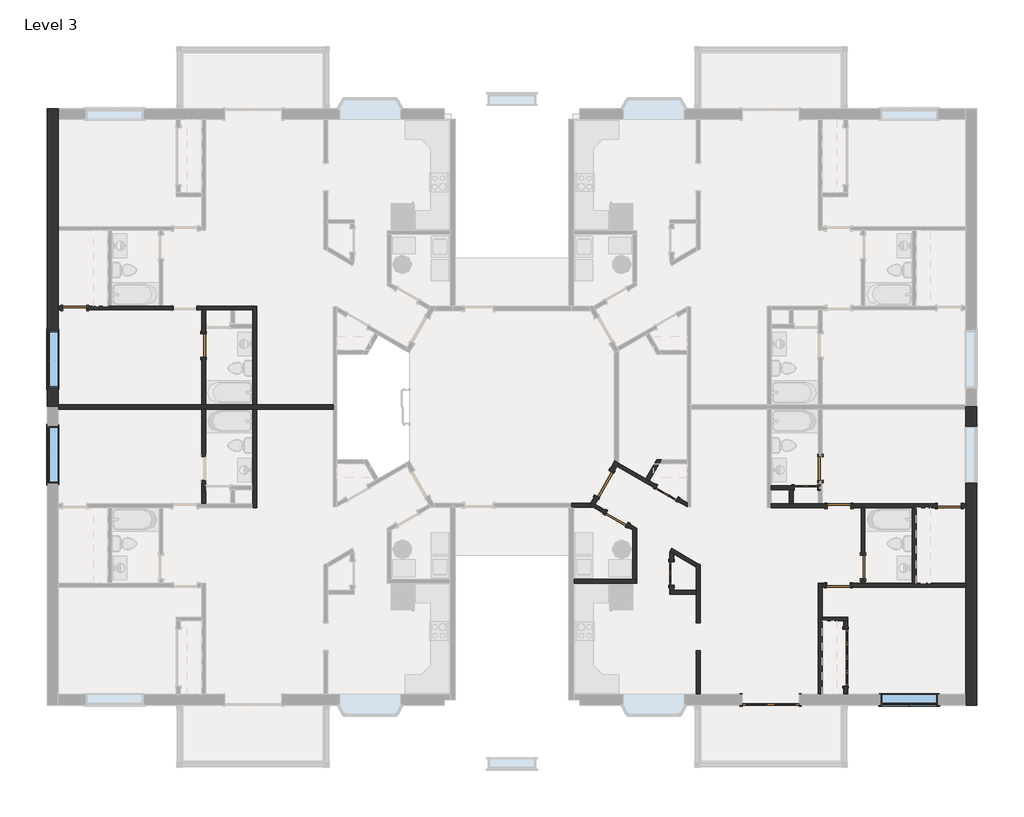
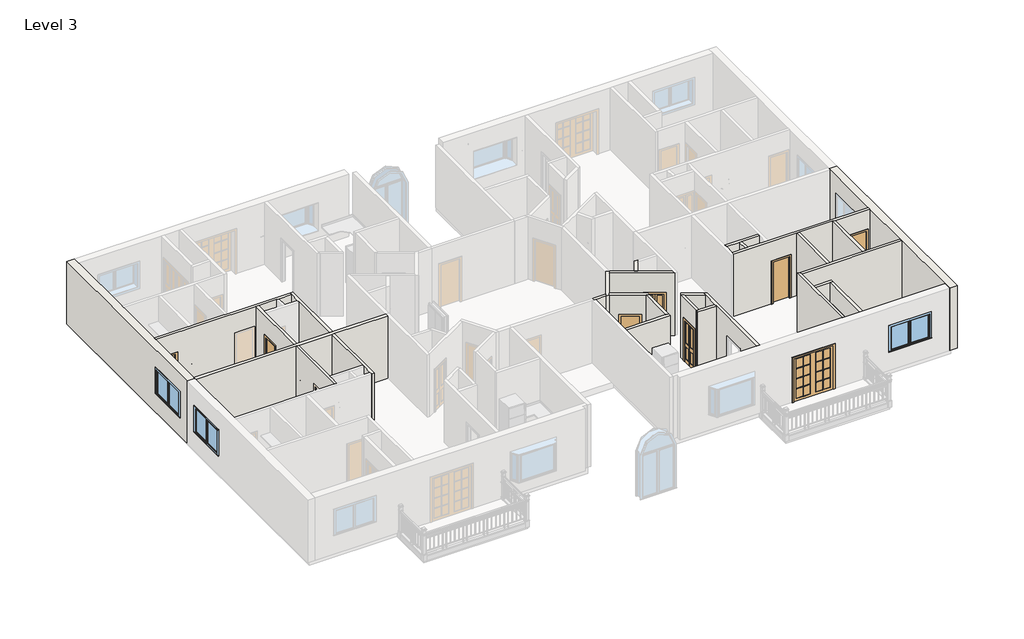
# One storey, part 2 of 5: 28 walls, 14 doors, 3 windows.
"""IFC4 building model written with IfcOpenShell, lengths in millimetres."""

from ifc_helpers import new_model, si_unit, frame, origin, place, context, project, spatial, polyline, outline, extrude, faceted_brep, transform, mapped, element, save
from components import door_28b41c19, door_77c9d7c5, door_beec499a, door_8fade463, door_91cbdfe0, door_39079f6b, door_e1308624, window_565d5888, window_801eb773

model = new_model("IFC4")

# Units and contexts
model_context = context("Model", 3, world=origin())
ifc_project = project(units=[si_unit("LENGTHUNIT", "METRE", prefix="MILLI")], contexts=[model_context])

# Site, building, storey
site = spatial("IfcSite", under=ifc_project)
building = spatial("IfcBuilding", under=site)
storey = spatial("IfcBuildingStorey", under=building, Name="Level 3", Elevation=6096.0)

# Doors
placement = place(None, origin())
door_shape = door_28b41c19(model_context)
element("IfcDoor", 1, ObjectType="Bifold-2 Panel : 30\" x 80\"", at=placement, inside=storey, context=model_context, shape_type="MappedRepresentation", body=[
    mapped(door_shape, transform((4512.9374602, -3569.9786799, 6096.0), x_axis=(0.0, -1.0, 0.0), y_axis=(1.0, 0.0, 0.0), z_axis=(0.0, 0.0, 1.0))),
])
element("IfcDoor", 2, ObjectType="Bifold-2 Panel : 30\" x 80\"", at=placement, inside=storey, context=model_context, shape_type="MappedRepresentation", body=[
    mapped(door_shape, transform((4356.3593145, -978.2984974, 6096.0), x_axis=(0.8660254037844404, -0.4999999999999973, 0.0), y_axis=(0.4999999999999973, 0.8660254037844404, 0.0), z_axis=(0.0, 0.0, 1.0))),
])
door_2_shape = door_77c9d7c5(model_context)
element("IfcDoor", 3, ObjectType="Bifold-2 Panel : 30\" x 80\"", at=placement, inside=storey, context=model_context, shape_type="MappedRepresentation", body=[
    mapped(door_2_shape, transform((8842.0499602, -807.7286799, 6096.0), x_axis=(1.0, 0.0, 0.0), y_axis=(0.0, 1.0, 0.0), z_axis=(0.0, 0.0, 1.0))),
])
door_3_shape = door_beec499a(model_context)
element("IfcDoor", 4, ObjectType="Bifold-4 Panel : 72\" x 80\"", at=placement, inside=storey, context=model_context, shape_type="MappedRepresentation", body=[
    mapped(door_3_shape, transform((10123.1624602, -6287.7786799, 6096.0), x_axis=(0.0, 1.0, 0.0), y_axis=(-1.0, 0.0, 0.0), z_axis=(0.0, 0.0, 1.0))),
])
door_4_shape = door_8fade463(model_context)
element("IfcDoor", 5, ObjectType="Double-Glass 2 : 72\" x 84\"", at=placement, inside=storey, context=model_context, shape_type="MappedRepresentation", body=[
    mapped(door_4_shape, transform((7708.5749602, -7646.6786799, 6096.0), x_axis=(1.0, 0.0, 0.0), y_axis=(0.0, 1.0, 0.0), z_axis=(0.0, 0.0, 1.0))),
])
door_5_shape = door_91cbdfe0(model_context)
element("IfcDoor", 6, ObjectType="Single-Flush : 30\" x 80\"", at=placement, inside=storey, context=model_context, shape_type="MappedRepresentation", body=[
    mapped(door_5_shape, transform((-10574.6625398, 3775.3838201, 6096.0), x_axis=(0.0, 1.0, 0.0), y_axis=(-1.0, 0.0, 0.0), z_axis=(0.0, 0.0, 1.0))),
])
element("IfcDoor", 7, ObjectType="Single-Flush : 30\" x 80\"", at=placement, inside=storey, context=model_context, shape_type="MappedRepresentation", body=[
    mapped(door_5_shape, transform((-14725.9750398, 4983.4713201, 6096.0), x_axis=(-1.0, 0.0, 0.0), y_axis=(0.0, -1.0, 0.0), z_axis=(0.0, 0.0, 1.0))),
])
element("IfcDoor", 8, ObjectType="Single-Flush : 30\" x 80\"", at=placement, inside=storey, context=model_context, shape_type="MappedRepresentation", body=[
    mapped(door_5_shape, transform((9905.6749602, -1391.9286799, 6096.0), x_axis=(-1.0, 0.0, 0.0), y_axis=(0.0, -1.0, 0.0), z_axis=(0.0, 0.0, 1.0))),
])
element("IfcDoor", 9, ObjectType="Single-Flush : 30\" x 80\"", at=placement, inside=storey, context=model_context, shape_type="MappedRepresentation", body=[
    mapped(door_5_shape, transform((9310.3624602, -183.8411799, 6096.0), x_axis=(0.0, -1.0, 0.0), y_axis=(1.0, 0.0, 0.0), z_axis=(0.0, 0.0, 1.0))),
])
element("IfcDoor", 10, ObjectType="Single-Flush : 30\" x 80\"", at=placement, inside=storey, context=model_context, shape_type="MappedRepresentation", body=[
    mapped(door_5_shape, transform((13461.6749602, -1391.9286799, 6096.0), x_axis=(1.0, 0.0, 0.0), y_axis=(0.0, 1.0, 0.0), z_axis=(0.0, 0.0, 1.0))),
])
door_6_shape = door_39079f6b(model_context)
element("IfcDoor", 11, ObjectType="Single-Flush : 30\" x 80\"", at=placement, inside=storey, context=model_context, shape_type="MappedRepresentation", body=[
    mapped(door_6_shape, transform((9889.7999602, -3954.1536799, 6096.0), x_axis=(-1.0, 0.0, 0.0), y_axis=(0.0, -1.0, 0.0), z_axis=(0.0, 0.0, 1.0))),
])
element("IfcDoor", 12, ObjectType="Single-Flush : 30\" x 80\"", at=placement, inside=storey, context=model_context, shape_type="MappedRepresentation", body=[
    mapped(door_6_shape, transform((2740.2368992, -1809.0046321, 6096.0), x_axis=(-0.8660254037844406, 0.4999999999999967, 0.0), y_axis=(-0.4999999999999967, -0.8660254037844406, 0.0), z_axis=(0.0, 0.0, 1.0))),
])
element("IfcDoor", 13, ObjectType="Single-Flush : 30\" x 80\"", at=placement, inside=storey, context=model_context, shape_type="MappedRepresentation", body=[
    mapped(door_6_shape, transform((10685.1374602, -3358.8411799, 6096.0), x_axis=(0.0, -1.0, 0.0), y_axis=(1.0, 0.0, 0.0), z_axis=(0.0, 0.0, 1.0))),
])
door_7_shape = door_e1308624(model_context)
element("IfcDoor", 14, ObjectType="Single-Flush : 36\" x 80\"", at=placement, inside=storey, context=model_context, shape_type="MappedRepresentation", body=[
    mapped(door_7_shape, transform((2339.4553258, -687.0786799, 6096.0), x_axis=(0.4999999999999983, 0.8660254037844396, 0.0), y_axis=(-0.8660254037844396, 0.4999999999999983, 0.0), z_axis=(0.0, 0.0, 1.0))),
])

# Walls
element("IfcWall", 15, ObjectType="Exterior - Brick on Mtl. Stud", at=placement, inside=storey, context=model_context, shape_type="Brep", body=[
    faceted_brep([(-15259.3750398, 1795.7713201, 6096.0), (-15259.3750398, 1873.5588201, 6096.0), (-15259.3750398, 4921.5588201, 6096.0), (-15259.3750398, 5045.3838201, 6096.0), (-15259.3750398, 7483.7838201, 6096.0), (-15259.3750398, 7607.6088201, 6096.0), (-15259.3750398, 11062.0088201, 6096.0), (-15259.3750398, 11414.4338201, 6096.0), (-15259.3750398, 11414.4338201, 9144.0), (-15259.3750398, 11062.0088201, 9144.0), (-15259.3750398, 7607.6088201, 9144.0), (-15259.3750398, 7483.7838201, 9144.0), (-15259.3750398, 5045.3838201, 9144.0), (-15259.3750398, 4921.5588201, 9144.0), (-15259.3750398, 1873.5588201, 9144.0), (-15259.3750398, 1795.7713201, 9144.0), (-15259.3750398, 2421.2463201, 8229.6), (-15259.3750398, 4250.0463201, 8229.6), (-15259.3750398, 4250.0463201, 7010.4), (-15259.3750398, 2421.2463201, 7010.4), (-15611.8000398, 1795.7713201, 6096.0), (-15611.8000398, 1795.7713201, 9144.0), (-15611.8000398, 11414.4338201, 9144.0), (-15611.8000398, 11414.4338201, 6096.0), (-15611.8000398, 2421.2463201, 8229.6), (-15611.8000398, 2421.2463201, 7010.4), (-15611.8000398, 4250.0463201, 7010.4), (-15611.8000398, 4250.0463201, 8229.6)], [[[0, 1, 2, 3, 4, 5, 6, 7, 8, 9, 10, 11, 12, 13, 14, 15], [16, 17, 18, 19]], [[20, 21, 22, 23], [24, 25, 26, 27]], [[7, 6, 5, 4, 3, 2, 1, 0, 20, 23]], [[15, 14, 13, 12, 11, 10, 9, 8, 22, 21]], [[0, 15, 21, 20]], [[8, 7, 23, 22]], [[25, 24, 16, 19]], [[26, 25, 19, 18]], [[27, 26, 18, 17]], [[24, 27, 17, 16]]]),
])
element("IfcWall", 16, ObjectType="Exterior - Brick on Mtl. Stud", at=placement, inside=storey, context=model_context, shape_type="Brep", body=[
    faceted_brep([(13995.0749602, 1795.7713201, 6096.0), (13995.0749602, 1717.9838201, 6096.0), (13995.0749602, -1330.0161799, 6096.0), (13995.0749602, -1453.8411799, 6096.0), (13995.0749602, -3892.2411799, 6096.0), (13995.0749602, -4016.0661799, 6096.0), (13995.0749602, -7470.4661799, 6096.0), (13995.0749602, -7822.8911799, 6096.0), (13995.0749602, -7822.8911799, 9144.0), (13995.0749602, -7470.4661799, 9144.0), (13995.0749602, -4016.0661799, 9144.0), (13995.0749602, -3892.2411799, 9144.0), (13995.0749602, -1453.8411799, 9144.0), (13995.0749602, -1330.0161799, 9144.0), (13995.0749602, 1717.9838201, 9144.0), (13995.0749602, 1795.7713201, 9144.0), (13995.0749602, 1170.2963201, 8229.6), (13995.0749602, -658.5036799, 8229.6), (13995.0749602, -658.5036799, 7010.4), (13995.0749602, 1170.2963201, 7010.4), (14347.4999602, 1795.7713201, 6096.0), (14347.4999602, 1795.7713201, 9144.0), (14347.4999602, -7822.8911799, 9144.0), (14347.4999602, -7822.8911799, 6096.0), (14347.4999602, 1170.2963201, 8229.6), (14347.4999602, 1170.2963201, 7010.4), (14347.4999602, -658.5036799, 7010.4), (14347.4999602, -658.5036799, 8229.6)], [[[0, 1, 2, 3, 4, 5, 6, 7, 8, 9, 10, 11, 12, 13, 14, 15], [16, 17, 18, 19]], [[20, 21, 22, 23], [24, 25, 26, 27]], [[7, 6, 5, 4, 3, 2, 1, 0, 20, 23]], [[15, 14, 13, 12, 11, 10, 9, 8, 22, 21]], [[0, 15, 21, 20]], [[8, 7, 23, 22]], [[25, 24, 16, 19]], [[26, 25, 19, 18]], [[27, 26, 18, 17]], [[24, 27, 17, 16]]]),
])
element("IfcWall", 17, ObjectType="Generic - 6\" Masonry", at=placement, inside=storey, context=model_context, shape_type="Brep", body=[
    faceted_brep([(1902.2640513, -1301.4411799, 6096.0), (1274.4374602, -1301.4411799, 6096.0), (1274.4374602, -1301.4411799, 9144.0), (1902.2640513, -1301.4411799, 9144.0), (1819.7751316, -1444.3161799, 6096.0), (1819.7751316, -1444.3161799, 9144.0), (1352.2249602, -1444.3161799, 9144.0), (1274.4374602, -1444.3161799, 9144.0), (1274.4374602, -1444.3161799, 6096.0), (1352.2249602, -1444.3161799, 6096.0)], [[[0, 1, 2, 3]], [[4, 5, 6, 7, 8, 9]], [[1, 0, 4, 9, 8]], [[2, 1, 8, 7]], [[3, 2, 7, 6, 5]], [[0, 3, 5, 4]]]),
])
element("IfcWall", 18, ObjectType="Generic - 6\" Masonry", at=placement, inside=storey, context=model_context, shape_type="Brep", body=[
    faceted_brep([(2686.6690032, 57.1880504, 6096.0), (2667.5273827, 24.0337913, 6096.0), (2506.188636, -255.4131153, 6096.0), (2506.188636, -255.4131153, 8128.0), (2048.988636, -1047.3067445, 8128.0), (2048.988636, -1047.3067445, 6096.0), (1902.2640513, -1301.4411799, 6096.0), (1819.7751316, -1444.3161799, 6096.0), (1819.7751316, -1444.3161799, 9144.0), (1902.2640513, -1301.4411799, 9144.0), (2667.5273827, 24.0337913, 9144.0), (2686.6690032, 57.1880504, 9144.0), (2629.9220156, -326.8506153, 8128.0), (2629.9220156, -326.8506153, 6096.0), (2748.4898827, -121.4850452, 6096.0), (2810.4023827, -14.2494496, 6096.0), (2810.4023827, -14.2494496, 9144.0), (2748.4898827, -121.4850452, 9144.0), (2046.665471, -1337.0805843, 9144.0), (1984.752971, -1444.3161799, 9144.0), (1984.752971, -1444.3161799, 6096.0), (2046.665471, -1337.0805843, 6096.0), (2172.7220156, -1118.7442445, 6096.0), (2172.7220156, -1118.7442445, 8128.0)], [[[0, 1, 2, 3, 4, 5, 6, 7, 8, 9, 10, 11]], [[12, 13, 14, 15, 16, 17, 18, 19, 20, 21, 22, 23]], [[15, 14, 13, 2, 1, 0]], [[22, 21, 20, 7, 6, 5]], [[11, 10, 9, 8, 19, 18, 17, 16]], [[0, 11, 16, 15]], [[8, 7, 20, 19]], [[3, 2, 13, 12]], [[4, 3, 12, 23]], [[5, 4, 23, 22]]]),
])
element("IfcWall", 19, ObjectType="Interior - 4 7/8\" Partition (1-hr)", at=placement, inside=storey, context=model_context, shape_type="Brep", body=[
    faceted_brep([(-10512.7500398, -1330.0161799, 6096.0), (-10512.7500398, -869.6411799, 6096.0), (-10512.7500398, -745.8161799, 6096.0), (-10512.7500398, -564.8411799, 6096.0), (-10512.7500398, -564.8411799, 8128.0), (-10512.7500398, 197.1588201, 8128.0), (-10512.7500398, 197.1588201, 6096.0), (-10512.7500398, 1717.9838201, 6096.0), (-10512.7500398, 1717.9838201, 9144.0), (-10512.7500398, -745.8161799, 9144.0), (-10512.7500398, -869.6411799, 9144.0), (-10512.7500398, -1330.0161799, 9144.0), (-10636.5750398, -564.8411799, 8128.0), (-10636.5750398, -564.8411799, 6096.0), (-10636.5750398, -1330.0161799, 6096.0), (-10636.5750398, -1330.0161799, 9144.0), (-10636.5750398, 1717.9838201, 9144.0), (-10636.5750398, 1717.9838201, 6096.0), (-10636.5750398, 197.1588201, 6096.0), (-10636.5750398, 197.1588201, 8128.0)], [[[0, 1, 2, 3, 4, 5, 6, 7, 8, 9, 10, 11]], [[12, 13, 14, 15, 16, 17, 18, 19]], [[14, 13, 3, 2, 1, 0]], [[18, 17, 7, 6]], [[11, 10, 9, 8, 16, 15]], [[0, 11, 15, 14]], [[8, 7, 17, 16]], [[4, 3, 13, 12]], [[5, 4, 12, 19]], [[6, 5, 19, 18]]]),
])
element("IfcWall", 20, ObjectType="Interior - 4 7/8\" Partition (1-hr)", at=placement, inside=storey, context=model_context, shape_type="Brep", body=[
    faceted_brep([(-8864.9250398, -1453.8411799, 6096.0), (-8864.9250398, 1717.9838201, 6096.0), (-8864.9250398, 1717.9838201, 9144.0), (-8864.9250398, -1453.8411799, 9144.0), (-8988.7500398, -1453.8411799, 6096.0), (-8988.7500398, -1453.8411799, 9144.0), (-8988.7500398, -1330.0161799, 9144.0), (-8988.7500398, -869.6411799, 9144.0), (-8988.7500398, -745.8161799, 9144.0), (-8988.7500398, 1717.9838201, 9144.0), (-8988.7500398, 1717.9838201, 6096.0), (-8988.7500398, -745.8161799, 6096.0), (-8988.7500398, -869.6411799, 6096.0), (-8988.7500398, -1330.0161799, 6096.0)], [[[0, 1, 2, 3]], [[4, 5, 6, 7, 8, 9, 10, 11, 12, 13]], [[1, 0, 4, 13, 12, 11, 10]], [[3, 2, 9, 8, 7, 6, 5]], [[0, 3, 5, 4]], [[2, 1, 10, 9]]]),
])
element("IfcWall", 21, ObjectType="Interior - 4 7/8\" Partition (1-hr)", at=placement, inside=storey, context=model_context, shape_type="Brep", body=[
    faceted_brep([(-10636.5750398, 4921.5588201, 6096.0), (-10636.5750398, 4156.3838201, 6096.0), (-10636.5750398, 4156.3838201, 8128.0), (-10636.5750398, 3394.3838201, 8128.0), (-10636.5750398, 3394.3838201, 6096.0), (-10636.5750398, 1873.5588201, 6096.0), (-10636.5750398, 1873.5588201, 9144.0), (-10636.5750398, 4921.5588201, 9144.0), (-10512.7500398, 4156.3838201, 8128.0), (-10512.7500398, 4156.3838201, 6096.0), (-10512.7500398, 4337.3588201, 6096.0), (-10512.7500398, 4461.1838201, 6096.0), (-10512.7500398, 4921.5588201, 6096.0), (-10512.7500398, 4921.5588201, 9144.0), (-10512.7500398, 4461.1838201, 9144.0), (-10512.7500398, 4337.3588201, 9144.0), (-10512.7500398, 1873.5588201, 9144.0), (-10512.7500398, 1873.5588201, 6096.0), (-10512.7500398, 3394.3838201, 6096.0), (-10512.7500398, 3394.3838201, 8128.0)], [[[0, 1, 2, 3, 4, 5, 6, 7]], [[8, 9, 10, 11, 12, 13, 14, 15, 16, 17, 18, 19]], [[12, 11, 10, 9, 1, 0]], [[18, 17, 5, 4]], [[7, 6, 16, 15, 14, 13]], [[0, 7, 13, 12]], [[6, 5, 17, 16]], [[2, 1, 9, 8]], [[3, 2, 8, 19]], [[4, 3, 19, 18]]]),
])
element("IfcWall", 22, ObjectType="Interior - 4 7/8\" Partition (1-hr)", at=placement, inside=storey, context=model_context, shape_type="Brep", body=[
    faceted_brep([(-15259.3750398, 4921.5588201, 6096.0), (-15106.9750398, 4921.5588201, 6096.0), (-15106.9750398, 4921.5588201, 8128.0), (-14344.9750398, 4921.5588201, 8128.0), (-14344.9750398, 4921.5588201, 6096.0), (-11550.9750398, 4921.5588201, 6096.0), (-11550.9750398, 4921.5588201, 8128.0), (-10788.9750398, 4921.5588201, 8128.0), (-10788.9750398, 4921.5588201, 6096.0), (-10636.5750398, 4921.5588201, 6096.0), (-10512.7500398, 4921.5588201, 6096.0), (-9699.9500398, 4921.5588201, 6096.0), (-9576.1250398, 4921.5588201, 6096.0), (-8988.7500398, 4921.5588201, 6096.0), (-8988.7500398, 4921.5588201, 9144.0), (-9576.1250398, 4921.5588201, 9144.0), (-9699.9500398, 4921.5588201, 9144.0), (-10512.7500398, 4921.5588201, 9144.0), (-10636.5750398, 4921.5588201, 9144.0), (-15259.3750398, 4921.5588201, 9144.0), (-15106.9750398, 5045.3838201, 8128.0), (-15106.9750398, 5045.3838201, 6096.0), (-15259.3750398, 5045.3838201, 6096.0), (-15259.3750398, 5045.3838201, 9144.0), (-13659.1750398, 5045.3838201, 9144.0), (-13535.3500398, 5045.3838201, 9144.0), (-12011.3500398, 5045.3838201, 9144.0), (-11887.5250398, 5045.3838201, 9144.0), (-8988.7500398, 5045.3838201, 9144.0), (-8988.7500398, 5045.3838201, 6096.0), (-10788.9750398, 5045.3838201, 6096.0), (-10788.9750398, 5045.3838201, 8128.0), (-11550.9750398, 5045.3838201, 8128.0), (-11550.9750398, 5045.3838201, 6096.0), (-11887.5250398, 5045.3838201, 6096.0), (-12011.3500398, 5045.3838201, 6096.0), (-13535.3500398, 5045.3838201, 6096.0), (-13659.1750398, 5045.3838201, 6096.0), (-14344.9750398, 5045.3838201, 6096.0), (-14344.9750398, 5045.3838201, 8128.0)], [[[0, 1, 2, 3, 4, 5, 6, 7, 8, 9, 10, 11, 12, 13, 14, 15, 16, 17, 18, 19]], [[20, 21, 22, 23, 24, 25, 26, 27, 28, 29, 30, 31, 32, 33, 34, 35, 36, 37, 38, 39]], [[13, 12, 11, 10, 9, 8, 30, 29]], [[22, 21, 1, 0]], [[38, 37, 36, 35, 34, 33, 5, 4]], [[19, 18, 17, 16, 15, 14, 28, 27, 26, 25, 24, 23]], [[14, 13, 29, 28]], [[0, 19, 23, 22]], [[31, 30, 8, 7]], [[32, 31, 7, 6]], [[33, 32, 6, 5]], [[2, 1, 21, 20]], [[3, 2, 20, 39]], [[4, 3, 39, 38]]]),
])
element("IfcWall", 23, ObjectType="Interior - 4 7/8\" Partition (1-hr)", at=placement, inside=storey, context=model_context, shape_type="Brep", body=[
    faceted_brep([(-8988.7500398, 5045.3838201, 6096.0), (-8988.7500398, 4921.5588201, 6096.0), (-8988.7500398, 4461.1838201, 6096.0), (-8988.7500398, 4337.3588201, 6096.0), (-8988.7500398, 1873.5588201, 6096.0), (-8988.7500398, 1873.5588201, 9144.0), (-8988.7500398, 4337.3588201, 9144.0), (-8988.7500398, 4461.1838201, 9144.0), (-8988.7500398, 4921.5588201, 9144.0), (-8988.7500398, 5045.3838201, 9144.0), (-8864.9250398, 5045.3838201, 6096.0), (-8864.9250398, 5045.3838201, 9144.0), (-8864.9250398, 1873.5588201, 9144.0), (-8864.9250398, 1873.5588201, 6096.0)], [[[0, 1, 2, 3, 4, 5, 6, 7, 8, 9]], [[10, 11, 12, 13]], [[4, 3, 2, 1, 0, 10, 13]], [[9, 8, 7, 6, 5, 12, 11]], [[0, 9, 11, 10]], [[5, 4, 13, 12]]]),
])
element("IfcWall", 24, ObjectType="Interior - 4 7/8\" Partition (1-hr)", at=placement, inside=storey, context=model_context, shape_type="Brep", body=[
    faceted_brep([(5438.4499602, -7470.4661799, 6096.0), (5438.4499602, -6071.8786799, 6096.0), (5438.4499602, -6071.8786799, 8128.0), (5438.4499602, -5157.4786799, 8128.0), (5438.4499602, -5157.4786799, 6096.0), (5438.4499602, -3295.3282721, 6096.0), (5438.4499602, -3295.3282721, 9144.0), (5438.4499602, -7470.4661799, 9144.0), (5314.6249602, -6071.8786799, 8128.0), (5314.6249602, -6071.8786799, 6096.0), (5314.6249602, -7470.4661799, 6096.0), (5314.6249602, -7470.4661799, 9144.0), (5314.6249602, -4244.6661799, 9144.0), (5314.6249602, -4120.8411799, 9144.0), (5314.6249602, -3366.8186692, 9144.0), (5314.6249602, -3223.8378751, 9144.0), (5314.6249602, -3223.8378751, 6096.0), (5314.6249602, -3366.8186692, 6096.0), (5314.6249602, -4120.8411799, 6096.0), (5314.6249602, -4244.6661799, 6096.0), (5314.6249602, -5157.4786799, 6096.0), (5314.6249602, -5157.4786799, 8128.0)], [[[0, 1, 2, 3, 4, 5, 6, 7]], [[8, 9, 10, 11, 12, 13, 14, 15, 16, 17, 18, 19, 20, 21]], [[10, 9, 1, 0]], [[20, 19, 18, 17, 16, 5, 4]], [[7, 6, 15, 14, 13, 12, 11]], [[6, 5, 16, 15]], [[0, 7, 11, 10]], [[4, 3, 21, 20]], [[2, 1, 9, 8]], [[3, 2, 8, 21]]]),
])
element("IfcWall", 25, ObjectType="Interior - 4 7/8\" Partition (1-hr)", at=placement, inside=storey, context=model_context, shape_type="Brep", body=[
    faceted_brep([(9372.2749602, -7470.4661799, 6096.0), (9372.2749602, -5105.0911799, 6096.0), (9372.2749602, -4981.2661799, 6096.0), (9372.2749602, -4016.0661799, 6096.0), (9372.2749602, -3892.2411799, 6096.0), (9372.2749602, -3892.2411799, 9144.0), (9372.2749602, -4016.0661799, 9144.0), (9372.2749602, -4981.2661799, 9144.0), (9372.2749602, -5105.0911799, 9144.0), (9372.2749602, -7470.4661799, 9144.0), (9248.4499602, -7470.4661799, 6096.0), (9248.4499602, -7470.4661799, 9144.0), (9248.4499602, -3892.2411799, 9144.0), (9248.4499602, -3892.2411799, 6096.0)], [[[0, 1, 2, 3, 4, 5, 6, 7, 8, 9]], [[10, 11, 12, 13]], [[4, 3, 2, 1, 0, 10, 13]], [[9, 8, 7, 6, 5, 12, 11]], [[5, 4, 13, 12]], [[0, 9, 11, 10]]]),
])
element("IfcWall", 26, ObjectType="Interior - 4 7/8\" Partition (1-hr)", at=placement, inside=storey, context=model_context, shape_type="Brep", body=[
    faceted_brep([(9372.2749602, -4016.0661799, 6096.0), (9508.7999602, -4016.0661799, 6096.0), (9508.7999602, -4016.0661799, 8128.0), (10270.7999602, -4016.0661799, 8128.0), (10270.7999602, -4016.0661799, 6096.0), (13995.0749602, -4016.0661799, 6096.0), (13995.0749602, -4016.0661799, 9144.0), (9372.2749602, -4016.0661799, 9144.0), (9508.7999602, -3892.2411799, 8128.0), (9508.7999602, -3892.2411799, 6096.0), (9372.2749602, -3892.2411799, 6096.0), (9372.2749602, -3892.2411799, 9144.0), (10623.2249602, -3892.2411799, 9144.0), (10747.0499602, -3892.2411799, 9144.0), (12271.0499602, -3892.2411799, 9144.0), (12394.8749602, -3892.2411799, 9144.0), (13995.0749602, -3892.2411799, 9144.0), (13995.0749602, -3892.2411799, 6096.0), (12394.8749602, -3892.2411799, 6096.0), (12271.0499602, -3892.2411799, 6096.0), (10747.0499602, -3892.2411799, 6096.0), (10623.2249602, -3892.2411799, 6096.0), (10270.7999602, -3892.2411799, 6096.0), (10270.7999602, -3892.2411799, 8128.0)], [[[0, 1, 2, 3, 4, 5, 6, 7]], [[8, 9, 10, 11, 12, 13, 14, 15, 16, 17, 18, 19, 20, 21, 22, 23]], [[10, 9, 1, 0]], [[22, 21, 20, 19, 18, 17, 5, 4]], [[7, 6, 16, 15, 14, 13, 12, 11]], [[6, 5, 17, 16]], [[0, 7, 11, 10]], [[2, 1, 9, 8]], [[3, 2, 8, 23]], [[4, 3, 23, 22]]]),
])
element("IfcWall", 27, ObjectType="Interior - 4 7/8\" Partition (1-hr)", at=placement, inside=storey, context=model_context, shape_type="SweptSolid", body=[
    extrude(outline(polyline([(-3739.8411799, 8128.0), (-3739.8411799, 6096.0), (-3892.2411799, 6096.0), (-3892.2411799, 9144.0), (-1453.8411799, 9144.0), (-1453.8411799, 6096.0), (-2977.8411799, 6096.0), (-2977.8411799, 8128.0), (-3739.8411799, 8128.0)])), frame((10623.2249602, 0.0, 0.0), z_axis=(1.0, 0.0, 0.0), x_axis=(0.0, 1.0, 0.0)), (0.0, 0.0, 1.0), 123.825),
])
element("IfcWall", 28, ObjectType="Interior - 4 7/8\" Partition (1-hr)", at=placement, inside=storey, context=model_context, shape_type="Brep", body=[
    faceted_brep([(9372.2749602, -5105.0911799, 6096.0), (10061.2499602, -5105.0911799, 6096.0), (10185.0749602, -5105.0911799, 6096.0), (10185.0749602, -5105.0911799, 9144.0), (10061.2499602, -5105.0911799, 9144.0), (9372.2749602, -5105.0911799, 9144.0), (9372.2749602, -4981.2661799, 6096.0), (9372.2749602, -4981.2661799, 9144.0), (10185.0749602, -4981.2661799, 9144.0), (10185.0749602, -4981.2661799, 6096.0)], [[[0, 1, 2, 3, 4, 5]], [[6, 7, 8, 9]], [[2, 1, 0, 6, 9]], [[5, 4, 3, 8, 7]], [[3, 2, 9, 8]], [[0, 5, 7, 6]]]),
])
element("IfcWall", 29, ObjectType="Interior - 4 7/8\" Partition (1-hr)", at=placement, inside=storey, context=model_context, shape_type="SweptSolid", body=[
    extrude(outline(polyline([(-5105.0911799, 6096.0), (-5373.3786799, 6096.0), (-5373.3786799, 8128.0), (-7202.1786799, 8128.0), (-7202.1786799, 6096.0), (-7470.4661799, 6096.0), (-7470.4661799, 9144.0), (-5105.0911799, 9144.0), (-5105.0911799, 6096.0)])), frame((10061.2499602, 0.0, 0.0), z_axis=(1.0, 0.0, 0.0), x_axis=(0.0, 1.0, 0.0)), (0.0, 0.0, 1.0), 123.825),
])
element("IfcWall", 30, ObjectType="Interior - 4 7/8\" Partition (1-hr)", at=placement, inside=storey, context=model_context, shape_type="SweptSolid", body=[
    extrude(outline(polyline([(12394.8749602, -1453.8411799), (12394.8749602, -3892.2411799), (12271.0499602, -3892.2411799), (12271.0499602, -1453.8411799), (12394.8749602, -1453.8411799)])), frame((0.0, 0.0, 6096.0), z_axis=(0.0, 0.0, 1.0), x_axis=(1.0, 0.0, 0.0)), (0.0, 0.0, 1.0), 3048.0),
])
element("IfcWall", 31, ObjectType="Interior - 4 7/8\" Partition (1-hr)", at=placement, inside=storey, context=model_context, shape_type="Brep", body=[
    faceted_brep([(13995.0749602, -1330.0161799, 6096.0), (13842.6749602, -1330.0161799, 6096.0), (13842.6749602, -1330.0161799, 8128.0), (13080.6749602, -1330.0161799, 8128.0), (13080.6749602, -1330.0161799, 6096.0), (10286.6749602, -1330.0161799, 6096.0), (10286.6749602, -1330.0161799, 8128.0), (9524.6749602, -1330.0161799, 8128.0), (9524.6749602, -1330.0161799, 6096.0), (9372.2749602, -1330.0161799, 6096.0), (9248.4499602, -1330.0161799, 6096.0), (8435.6499602, -1330.0161799, 6096.0), (8311.8249602, -1330.0161799, 6096.0), (7724.4499602, -1330.0161799, 6096.0), (7724.4499602, -1330.0161799, 9144.0), (8311.8249602, -1330.0161799, 9144.0), (8435.6499602, -1330.0161799, 9144.0), (9248.4499602, -1330.0161799, 9144.0), (9372.2749602, -1330.0161799, 9144.0), (13995.0749602, -1330.0161799, 9144.0), (13842.6749602, -1453.8411799, 8128.0), (13842.6749602, -1453.8411799, 6096.0), (13995.0749602, -1453.8411799, 6096.0), (13995.0749602, -1453.8411799, 9144.0), (12394.8749602, -1453.8411799, 9144.0), (12271.0499602, -1453.8411799, 9144.0), (10747.0499602, -1453.8411799, 9144.0), (10623.2249602, -1453.8411799, 9144.0), (7724.4499602, -1453.8411799, 9144.0), (7724.4499602, -1453.8411799, 6096.0), (9524.6749602, -1453.8411799, 6096.0), (9524.6749602, -1453.8411799, 8128.0), (10286.6749602, -1453.8411799, 8128.0), (10286.6749602, -1453.8411799, 6096.0), (10623.2249602, -1453.8411799, 6096.0), (10747.0499602, -1453.8411799, 6096.0), (12271.0499602, -1453.8411799, 6096.0), (12394.8749602, -1453.8411799, 6096.0), (13080.6749602, -1453.8411799, 6096.0), (13080.6749602, -1453.8411799, 8128.0)], [[[0, 1, 2, 3, 4, 5, 6, 7, 8, 9, 10, 11, 12, 13, 14, 15, 16, 17, 18, 19]], [[20, 21, 22, 23, 24, 25, 26, 27, 28, 29, 30, 31, 32, 33, 34, 35, 36, 37, 38, 39]], [[13, 12, 11, 10, 9, 8, 30, 29]], [[22, 21, 1, 0]], [[38, 37, 36, 35, 34, 33, 5, 4]], [[19, 18, 17, 16, 15, 14, 28, 27, 26, 25, 24, 23]], [[14, 13, 29, 28]], [[0, 19, 23, 22]], [[31, 30, 8, 7]], [[32, 31, 7, 6]], [[33, 32, 6, 5]], [[2, 1, 21, 20]], [[3, 2, 20, 39]], [[4, 3, 39, 38]]]),
])
element("IfcWall", 32, ObjectType="Interior - 4 7/8\" Partition (1-hr)", at=placement, inside=storey, context=model_context, shape_type="Brep", body=[
    faceted_brep([(5314.6249602, -4120.8411799, 6096.0), (4574.8499602, -4120.8411799, 6096.0), (4451.0249602, -4120.8411799, 6096.0), (4451.0249602, -4120.8411799, 9144.0), (4574.8499602, -4120.8411799, 9144.0), (5314.6249602, -4120.8411799, 9144.0), (5314.6249602, -4244.6661799, 6096.0), (5314.6249602, -4244.6661799, 9144.0), (4451.0249602, -4244.6661799, 9144.0), (4451.0249602, -4244.6661799, 6096.0)], [[[0, 1, 2, 3, 4, 5]], [[6, 7, 8, 9]], [[2, 1, 0, 6, 9]], [[5, 4, 3, 8, 7]], [[3, 2, 9, 8]], [[0, 5, 7, 6]]]),
])
element("IfcWall", 33, ObjectType="Interior - 4 7/8\" Partition (1-hr)", at=placement, inside=storey, context=model_context, shape_type="Brep", body=[
    faceted_brep([(4574.8499602, -4120.8411799, 6096.0), (4574.8499602, -3950.9786799, 6096.0), (4574.8499602, -3950.9786799, 8128.0), (4574.8499602, -3188.9786799, 8128.0), (4574.8499602, -3188.9786799, 6096.0), (4574.8499602, -2939.7093738, 6096.0), (4574.8499602, -2939.7093738, 9144.0), (4574.8499602, -4120.8411799, 9144.0), (4451.0249602, -3950.9786799, 8128.0), (4451.0249602, -3950.9786799, 6096.0), (4451.0249602, -4120.8411799, 6096.0), (4451.0249602, -4120.8411799, 9144.0), (4451.0249602, -2868.2189767, 9144.0), (4451.0249602, -2868.2189767, 6096.0), (4451.0249602, -3188.9786799, 6096.0), (4451.0249602, -3188.9786799, 8128.0)], [[[0, 1, 2, 3, 4, 5, 6, 7]], [[8, 9, 10, 11, 12, 13, 14, 15]], [[10, 9, 1, 0]], [[14, 13, 5, 4]], [[7, 6, 12, 11]], [[6, 5, 13, 12]], [[0, 7, 11, 10]], [[2, 1, 9, 8]], [[3, 2, 8, 15]], [[4, 3, 15, 14]]]),
])
element("IfcWall", 34, ObjectType="Interior - 4 7/8\" Partition (1-hr)", at=placement, inside=storey, context=model_context, shape_type="Brep", body=[
    faceted_brep([(1984.752971, -1444.3161799, 6096.0), (2379.3249703, -1672.1224299, 6096.0), (2379.3249703, -1672.1224299, 8128.0), (3039.236328, -2053.1224299, 8128.0), (3039.236328, -2053.1224299, 6096.0), (3260.3999602, -2180.8113125, 6096.0), (3384.2249602, -2252.3017096, 6096.0), (3384.2249602, -2252.3017096, 9144.0), (3260.3999602, -2180.8113125, 9144.0), (1984.752971, -1444.3161799, 9144.0), (2441.2374703, -1564.8868343, 8128.0), (2441.2374703, -1564.8868343, 6096.0), (2046.665471, -1337.0805843, 6096.0), (2046.665471, -1337.0805843, 9144.0), (3384.2249602, -2109.3209154, 9144.0), (3384.2249602, -2109.3209154, 6096.0), (3101.148828, -1945.8868343, 6096.0), (3101.148828, -1945.8868343, 8128.0)], [[[0, 1, 2, 3, 4, 5, 6, 7, 8, 9]], [[10, 11, 12, 13, 14, 15, 16, 17]], [[12, 11, 1, 0]], [[16, 15, 6, 5, 4]], [[9, 8, 7, 14, 13]], [[7, 6, 15, 14]], [[0, 9, 13, 12]], [[2, 1, 11, 10]], [[3, 2, 10, 17]], [[4, 3, 17, 16]]]),
])
element("IfcWall", 35, ObjectType="Interior - 4 7/8\" Partition (1-hr)", at=placement, inside=storey, context=model_context, shape_type="Brep", body=[
    faceted_brep([(3384.2249602, -3765.2411799, 6096.0), (3260.3999602, -3765.2411799, 6096.0), (1352.2249602, -3765.2411799, 6096.0), (1352.2249602, -3765.2411799, 9144.0), (3260.3999602, -3765.2411799, 9144.0), (3384.2249602, -3765.2411799, 9144.0), (3384.2249602, -3889.0661799, 6096.0), (3384.2249602, -3889.0661799, 9144.0), (1352.2249602, -3889.0661799, 9144.0), (1352.2249602, -3889.0661799, 6096.0)], [[[0, 1, 2, 3, 4, 5]], [[6, 7, 8, 9]], [[2, 1, 0, 6, 9]], [[5, 4, 3, 8, 7]], [[0, 5, 7, 6]], [[3, 2, 9, 8]]]),
])
element("IfcWall", 36, ObjectType="Interior - 4 7/8\" Partition (1-hr)", at=placement, inside=storey, context=model_context, shape_type="SweptSolid", body=[
    extrude(outline(polyline([(3384.2249602, -2252.3017096), (3384.2249602, -3765.2411799), (3260.3999602, -3765.2411799), (3260.3999602, -2180.8113125), (3384.2249602, -2252.3017096)])), frame((0.0, 0.0, 6096.0), z_axis=(0.0, 0.0, 1.0), x_axis=(1.0, 0.0, 0.0)), (0.0, 0.0, 1.0), 3048.0),
])
element("IfcWall", 37, ObjectType="Interior - 4 7/8\" Partition (1-hr)", at=placement, inside=storey, context=model_context, shape_type="Brep", body=[
    faceted_brep([(4451.0249602, -2868.2189767, 6096.0), (4574.8499602, -2939.7093738, 6096.0), (5314.6249602, -3366.8186692, 6096.0), (5314.6249602, -3366.8186692, 9144.0), (4574.8499602, -2939.7093738, 9144.0), (4451.0249602, -2868.2189767, 9144.0), (4512.9374602, -2760.9833811, 6096.0), (4512.9374602, -2760.9833811, 9144.0), (5314.6249602, -3223.8378751, 9144.0), (5314.6249602, -3223.8378751, 6096.0)], [[[0, 1, 2, 3, 4, 5]], [[6, 7, 8, 9]], [[2, 1, 0, 6, 9]], [[5, 4, 3, 8, 7]], [[0, 5, 7, 6]], [[3, 2, 9, 8]]]),
])
element("IfcWall", 38, ObjectType="Interior - 4 7/8\" Partition (1-hr)", at=placement, inside=storey, context=model_context, shape_type="Brep", body=[
    faceted_brep([(5012.9999602, -1285.9197539, 6096.0), (4717.2712434, -1115.1806996, 6096.0), (4717.2712434, -1115.1806996, 8128.0), (4057.3598857, -734.1806996, 8128.0), (4057.3598857, -734.1806996, 6096.0), (3786.521266, -577.8119496, 6096.0), (3679.2856704, -515.8994496, 6096.0), (2810.4023827, -14.2494496, 6096.0), (2810.4023827, -14.2494496, 9144.0), (3679.2856704, -515.8994496, 9144.0), (3786.521266, -577.8119496, 9144.0), (5012.9999602, -1285.9197539, 9144.0), (4655.3587434, -1222.4162952, 8128.0), (4655.3587434, -1222.4162952, 6096.0), (5012.9999602, -1428.900548, 6096.0), (5012.9999602, -1428.900548, 9144.0), (2748.4898827, -121.4850452, 9144.0), (2748.4898827, -121.4850452, 6096.0), (3995.4473857, -841.4162952, 6096.0), (3995.4473857, -841.4162952, 8128.0)], [[[0, 1, 2, 3, 4, 5, 6, 7, 8, 9, 10, 11]], [[12, 13, 14, 15, 16, 17, 18, 19]], [[14, 13, 1, 0]], [[18, 17, 7, 6, 5, 4]], [[11, 10, 9, 8, 16, 15]], [[8, 7, 17, 16]], [[0, 11, 15, 14]], [[2, 1, 13, 12]], [[3, 2, 12, 19]], [[4, 3, 19, 18]]]),
])
element("IfcWall", 39, ObjectType="Interior - 4 7/8\" Partition (1-hr)", at=placement, inside=storey, context=model_context, shape_type="Brep", body=[
    faceted_brep([(3786.521266, -577.8119496, 6096.0), (4103.5195463, -28.7548222, 6096.0), (4175.0099434, 95.0701778, 6096.0), (4175.0099434, 95.0701778, 9144.0), (4103.5195463, -28.7548222, 9144.0), (3786.521266, -577.8119496, 9144.0), (3679.2856704, -515.8994496, 6096.0), (3679.2856704, -515.8994496, 9144.0), (4032.0291492, 95.0701778, 9144.0), (4032.0291492, 95.0701778, 6096.0)], [[[0, 1, 2, 3, 4, 5]], [[6, 7, 8, 9]], [[2, 1, 0, 6, 9]], [[5, 4, 3, 8, 7]], [[3, 2, 9, 8]], [[0, 5, 7, 6]]]),
])
element("IfcWall", 40, ObjectType="Interior - 4 7/8\" Partition (1-hr)", at=placement, inside=storey, context=model_context, shape_type="Brep", body=[
    faceted_brep([(9248.4499602, -869.6411799, 9144.0), (8435.6499602, -869.6411799, 9144.0), (8311.8249602, -869.6411799, 9144.0), (7724.4499602, -869.6411799, 9144.0), (7724.4499602, -869.6411799, 6096.0), (8311.8249602, -869.6411799, 6096.0), (8435.6499602, -869.6411799, 6096.0), (8461.0499602, -869.6411799, 6096.0), (8461.0499602, -869.6411799, 8128.0), (9223.0499602, -869.6411799, 8128.0), (9223.0499602, -869.6411799, 6096.0), (9248.4499602, -869.6411799, 6096.0), (7724.4499602, -745.8161799, 9144.0), (9248.4499602, -745.8161799, 9144.0), (9248.4499602, -745.8161799, 6096.0), (9223.0499602, -745.8161799, 6096.0), (9223.0499602, -745.8161799, 8128.0), (8461.0499602, -745.8161799, 8128.0), (8461.0499602, -745.8161799, 6096.0), (7724.4499602, -745.8161799, 6096.0)], [[[0, 1, 2, 3, 4, 5, 6, 7, 8, 9, 10, 11]], [[12, 13, 14, 15, 16, 17, 18, 19]], [[4, 19, 18, 7, 6, 5]], [[14, 11, 10, 15]], [[3, 2, 1, 0, 13, 12]], [[9, 16, 15, 10]], [[16, 9, 8, 17]], [[17, 8, 7, 18]], [[4, 3, 12, 19]], [[0, 11, 14, 13]]]),
])
element("IfcWall", 41, ObjectType="Interior - 4 7/8\" Partition (1-hr)", at=placement, inside=storey, context=model_context, shape_type="SweptSolid", body=[
    extrude(outline(polyline([(8311.8249602, -1330.0161799), (8311.8249602, -869.6411799), (8435.6499602, -869.6411799), (8435.6499602, -1330.0161799), (8311.8249602, -1330.0161799)])), frame((0.0, 0.0, 6096.0), z_axis=(0.0, 0.0, 1.0), x_axis=(1.0, 0.0, 0.0)), (0.0, 0.0, 1.0), 3048.0),
])
element("IfcWall", 42, ObjectType="Interior - 6 1/8\" Partition (2-hr)", at=placement, inside=storey, context=model_context, shape_type="Brep", body=[
    faceted_brep([(-6401.1250398, 1873.5588201, 6096.0), (-8864.9250398, 1873.5588201, 6096.0), (-8988.7500398, 1873.5588201, 6096.0), (-10512.7500398, 1873.5588201, 6096.0), (-10636.5750398, 1873.5588201, 6096.0), (-15259.3750398, 1873.5588201, 6096.0), (-15259.3750398, 1873.5588201, 9144.0), (-10636.5750398, 1873.5588201, 9144.0), (-10512.7500398, 1873.5588201, 9144.0), (-8988.7500398, 1873.5588201, 9144.0), (-8864.9250398, 1873.5588201, 9144.0), (-6401.1250398, 1873.5588201, 9144.0), (-6401.1250398, 1717.9838201, 6096.0), (-6401.1250398, 1717.9838201, 9144.0), (-8864.9250398, 1717.9838201, 9144.0), (-8988.7500398, 1717.9838201, 9144.0), (-10512.7500398, 1717.9838201, 9144.0), (-10636.5750398, 1717.9838201, 9144.0), (-15259.3750398, 1717.9838201, 9144.0), (-15259.3750398, 1717.9838201, 6096.0), (-10636.5750398, 1717.9838201, 6096.0), (-10512.7500398, 1717.9838201, 6096.0), (-8988.7500398, 1717.9838201, 6096.0), (-8864.9250398, 1717.9838201, 6096.0), (-15259.3750398, 1795.7713201, 6096.0), (-15259.3750398, 1795.7713201, 9144.0)], [[[0, 1, 2, 3, 4, 5, 6, 7, 8, 9, 10, 11]], [[12, 13, 14, 15, 16, 17, 18, 19, 20, 21, 22, 23]], [[5, 4, 3, 2, 1, 0, 12, 23, 22, 21, 20, 19, 24]], [[11, 10, 9, 8, 7, 6, 25, 18, 17, 16, 15, 14, 13]], [[0, 11, 13, 12]], [[6, 5, 24, 19, 18, 25]]]),
])

# Windows
window_shape = window_565d5888(model_context)
element("IfcWindow", 43, ObjectType="Casement Dbl with Trim : 72\" x 48\"", at=placement, inside=storey, context=model_context, shape_type="MappedRepresentation", body=[
    mapped(window_shape, transform((-15416.5375398, 255.8963201, 5791.2), x_axis=(0.0, 1.0, 0.0), y_axis=(-1.0, 0.0, 0.0), z_axis=(0.0, 0.0, 1.0))),
])
window_2_shape = window_801eb773(model_context)
element("IfcWindow", 44, ObjectType="Casement Dbl with Trim : 72\" x 48\"", at=placement, inside=storey, context=model_context, shape_type="MappedRepresentation", body=[
    mapped(window_2_shape, transform((-15416.5375398, 3335.6463201, 5791.2), x_axis=(0.0, -1.0, 0.0), y_axis=(1.0, 0.0, 0.0), z_axis=(0.0, 0.0, 1.0))),
])
element("IfcWindow", 45, ObjectType="Casement Dbl with Trim : 72\" x 48\"", at=placement, inside=storey, context=model_context, shape_type="MappedRepresentation", body=[
    mapped(window_2_shape, transform((12171.8312102, -7627.6286799, 5791.2), x_axis=(1.0, 0.0, 0.0), y_axis=(0.0, 1.0, 0.0), z_axis=(0.0, 0.0, 1.0))),
])

save(model, "model.ifc")
